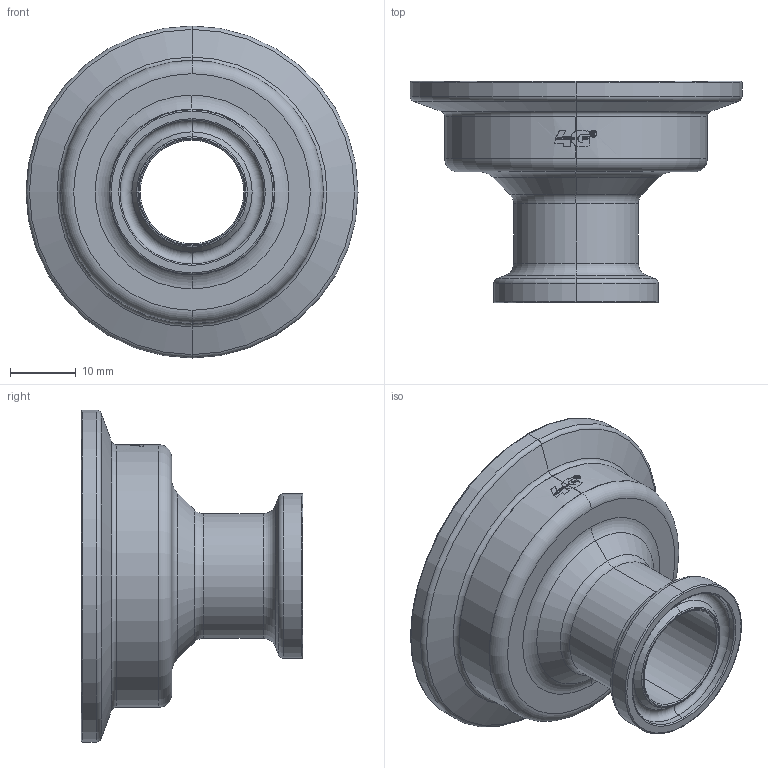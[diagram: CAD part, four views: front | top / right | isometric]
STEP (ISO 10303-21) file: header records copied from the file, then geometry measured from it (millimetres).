
FILE_DESCRIPTION((''),'2;1');
FILE_NAME('76808063900','2024-03-08T07:36:42',('alfio.taboni'),('CDM Tecnoconsulting'),'CREO PARAMETRIC BY PTC INC, 2023374','CREO PARAMETRIC BY PTC INC, 2023374','');
FILE_SCHEMA(('CONFIG_CONTROL_DESIGN','SHAPE_APPEARANCE_LAYERS_GROUPS'));
Length unit declared in the file: millimetre
Products named in the file (1): 76808063900
Bounding box: 50.5 x 33.7 x 50.5 mm (x, y, z)
Volume: 12901.8 mm3; surface area: 9451.6 mm2
Topology: 1 solids, 3 shells, 200 faces, 498 edges, 316 vertices
Faces by surface type: plane 75, extrusion 55, torus 38, cylinder 18, cone 14
Entity records: 6600 total; most frequent: CARTESIAN_POINT 1974, ORIENTED_EDGE 988, DIRECTION 825, EDGE_CURVE 498, VERTEX_POINT 316, AXIS2_PLACEMENT_3D 278, VECTOR 269, EDGE_LOOP 216
